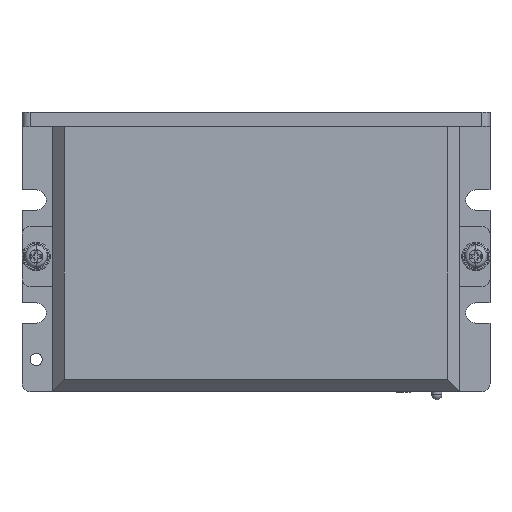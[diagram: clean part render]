
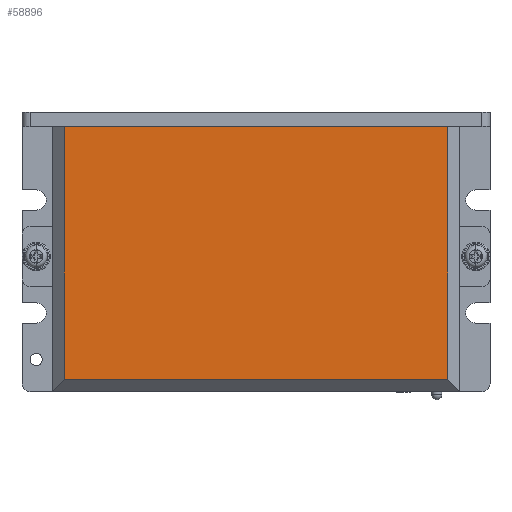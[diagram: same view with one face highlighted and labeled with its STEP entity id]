
A CAD part, top view. The second image highlights one B-rep face of the part: STEP entity #58896.
In plain terms, the highlighted planar face has unit normal (0, 0, 1).
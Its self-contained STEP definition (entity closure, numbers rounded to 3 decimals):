
#57243=DIRECTION('',(0.,-1.,0.));
#57244=VECTOR('',#57243,62.7);
#57245=CARTESIAN_POINT('',(-47.5,-31.822,2.995));
#57246=LINE('',#57245,#57244);
#57255=DIRECTION('',(1.,0.,0.));
#57256=VECTOR('',#57255,95.);
#57257=CARTESIAN_POINT('',(-47.5,-31.822,2.995));
#57258=LINE('',#57257,#57256);
#57259=DIRECTION('',(1.,0.,0.));
#57260=VECTOR('',#57259,95.);
#57261=CARTESIAN_POINT('',(-47.5,-94.522,2.995));
#57262=LINE('',#57261,#57260);
#57275=DIRECTION('',(0.,1.,0.));
#57276=VECTOR('',#57275,62.7);
#57277=CARTESIAN_POINT('',(47.5,-94.522,2.995));
#57278=LINE('',#57277,#57276);
#57983=CARTESIAN_POINT('',(47.5,-31.822,2.995));
#57984=VERTEX_POINT('',#57983);
#57985=CARTESIAN_POINT('',(-47.5,-31.822,2.995));
#57986=VERTEX_POINT('',#57985);
#58283=CARTESIAN_POINT('',(-47.5,-94.522,2.995));
#58284=VERTEX_POINT('',#58283);
#58285=CARTESIAN_POINT('',(47.5,-94.522,2.995));
#58286=VERTEX_POINT('',#58285);
#58883=CARTESIAN_POINT('',(0.,-64.672,2.995));
#58884=DIRECTION('',(0.,0.,1.));
#58885=DIRECTION('',(1.,0.,0.));
#58886=AXIS2_PLACEMENT_3D('',#58883,#58884,#58885);
#58887=PLANE('',#58886);
#58889=ORIENTED_EDGE('',*,*,#58888,.F.);
#58890=ORIENTED_EDGE('',*,*,#58875,.F.);
#58891=ORIENTED_EDGE('',*,*,#58367,.T.);
#58893=ORIENTED_EDGE('',*,*,#58892,.F.);
#58894=EDGE_LOOP('',(#58889,#58890,#58891,#58893));
#58895=FACE_OUTER_BOUND('',#58894,.F.);
#58896=ADVANCED_FACE('',(#58895),#58887,.T.);
#58367=EDGE_CURVE('',#57986,#57984,#57258,.T.);
#58875=EDGE_CURVE('',#57986,#58284,#57246,.T.);
#58888=EDGE_CURVE('',#58284,#58286,#57262,.T.);
#58892=EDGE_CURVE('',#58286,#57984,#57278,.T.);
